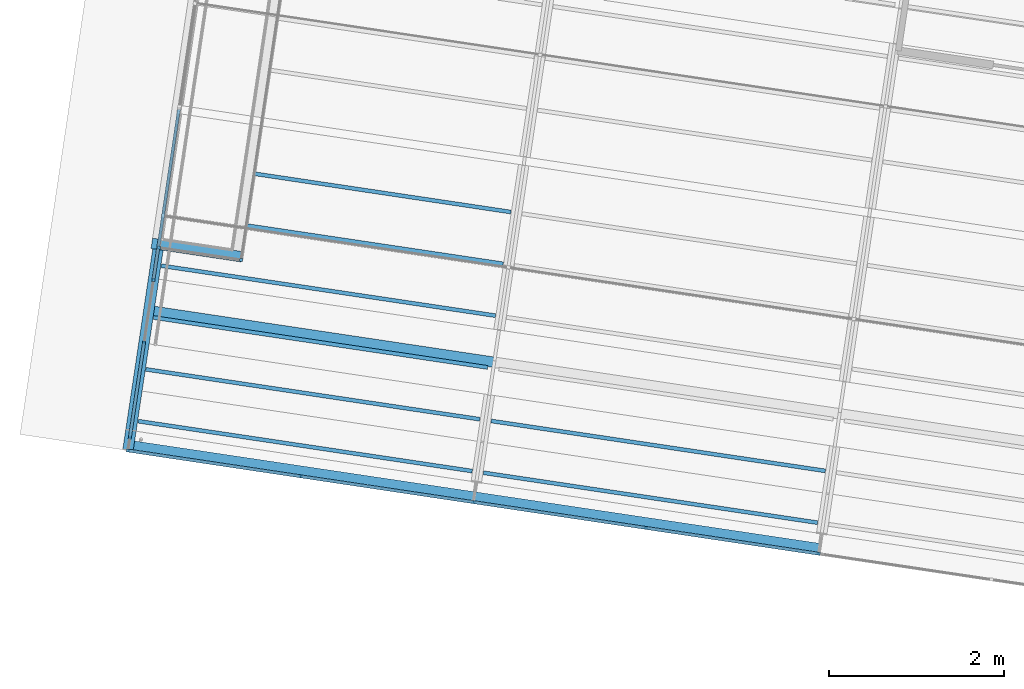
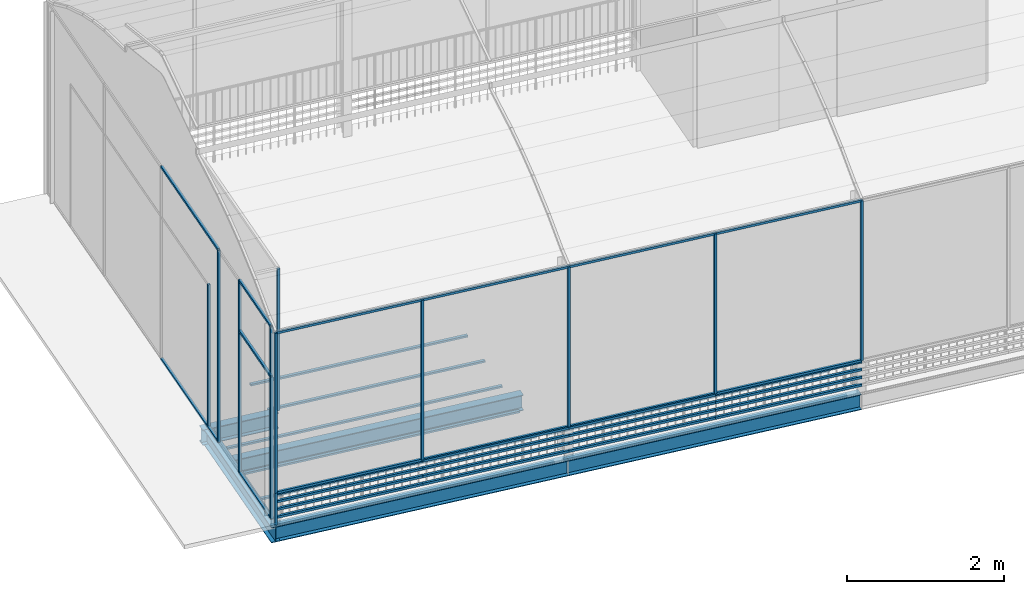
# One storey, part 3 of 34: 50 members, 13 beams.
"""IFC4 building model written with IfcOpenShell, lengths in metres."""

import ifcopenshell
import ifcopenshell.guid

model = None  # the IFC model being written
_history = None  # IfcOwnerHistory: only IFC2X3 demands one
_inside = {}  # id of a spatial element -> (the spatial element, [elements in it])
_under = {}  # id of a project, library or spatial element -> (it, [spatial elements below it])
_declared = {}  # id of a project -> (the project, [libraries it declares])
_typed = {}  # id of a type object -> (the type object, [elements of that type])
_made_of = {}  # id of a material, layer set ... -> (it, [elements and type objects made of it])


def new_model(schema):
    """Start an empty IFC model of exactly this schema.

    Asked for "IFC4X3", IfcOpenShell would pick the latest addendum, in which some entities
    have other attributes; the version numbers below select the first issue.
    IFC2X3 requires an IfcOwnerHistory on every rooted entity: one is made here for all.
    """
    global model, _history
    if schema == "IFC4X3":
        model = ifcopenshell.file(schema_version=(4, 3, 0, 0))
    else:
        model = ifcopenshell.file(schema=schema)
    _inside.clear()
    _under.clear()
    _declared.clear()
    _typed.clear()
    _made_of.clear()
    _history = None
    if model.schema == "IFC2X3":
        org = make("IfcOrganization", Name="unknown")
        user = make(
            "IfcPersonAndOrganization",
            ThePerson=make("IfcPerson", FamilyName="unknown"),
            TheOrganization=org,
        )
        app = make(
            "IfcApplication",
            ApplicationDeveloper=org,
            Version="unknown",
            ApplicationFullName="unknown",
            ApplicationIdentifier="unknown",
        )
        _history = make(
            "IfcOwnerHistory",
            OwningUser=user,
            OwningApplication=app,
            ChangeAction="ADDED",
            CreationDate=0,
        )
    return model


def make(cls, **values):
    """One entity of the class cls with the attributes given. An attribute that is None is left unset."""
    return model.create_entity(
        cls, **{name: value for name, value in values.items() if value is not None}
    )


def rooted(cls, **values):
    """An entity with a GlobalId (a new one), such as an element, a storey or a relation."""
    return make(cls, GlobalId=ifcopenshell.guid.new(), OwnerHistory=_history, **values)


def si_unit(unit_type, name, prefix=None):
    """IfcSIUnit, for example si_unit("LENGTHUNIT", "METRE", prefix="MILLI")."""
    return make("IfcSIUnit", UnitType=unit_type, Prefix=prefix, Name=name)


def assignment(units):
    """IfcUnitAssignment: the units of a project."""
    return None if units is None else make("IfcUnitAssignment", Units=units)


def point(xyz):
    """IfcCartesianPoint."""
    return None if xyz is None else make("IfcCartesianPoint", Coordinates=xyz)


def direction(xyz):
    """IfcDirection."""
    return None if xyz is None else make("IfcDirection", DirectionRatios=xyz)


def frame(location, z_axis=None, x_axis=None):
    """IfcAxis2Placement3D, a coordinate frame: its origin and axes. An axis left out is left unset."""
    return make(
        "IfcAxis2Placement3D",
        Location=point(location),
        Axis=direction(z_axis),
        RefDirection=direction(x_axis),
    )


def origin_with_axes():
    """The frame at (0, 0, 0) with the z axis (0, 0, 1) and the x axis (1, 0, 0) written out."""
    return frame((0.0, 0.0, 0.0), z_axis=(0.0, 0.0, 1.0), x_axis=(1.0, 0.0, 0.0))


def place(relative_to, where):
    """IfcLocalPlacement: puts the frame where relative to a parent placement (None: the world)."""
    return make(
        "IfcLocalPlacement", PlacementRelTo=relative_to, RelativePlacement=where
    )


def context(
    kind, dimensions, precision=None, world=None, true_north=None, identifier=None
):
    """IfcGeometricRepresentationContext, for example the 3D "Model" context."""
    return make(
        "IfcGeometricRepresentationContext",
        ContextIdentifier=identifier,
        ContextType=kind,
        CoordinateSpaceDimension=dimensions,
        Precision=precision,
        WorldCoordinateSystem=world,
        TrueNorth=true_north,
    )


def subcontext(parent, identifier, kind, view, scale=None):
    """IfcGeometricRepresentationSubContext, for example "Body" below "Model"."""
    return make(
        "IfcGeometricRepresentationSubContext",
        ContextIdentifier=identifier,
        ContextType=kind,
        ParentContext=parent,
        TargetScale=scale,
        TargetView=view,
    )


def project(units=None, contexts=None):
    """IfcProject with its units and contexts."""
    return rooted(
        "IfcProject",
        Name="project",
        RepresentationContexts=contexts,
        UnitsInContext=assignment(units),
    )


def spatial(cls, under=None, at=None, **own):
    """A site, building, storey or space (cls), placed at a placement, below another one or the project."""
    s = rooted(cls, ObjectPlacement=at, **own)
    if under is not None:
        _under.setdefault(under.id(), (under, []))[1].append(s)
    return s


def polyline(points):
    """IfcPolyline through the points."""
    return make("IfcPolyline", Points=[point(p) for p in points])


def profile(cls, at=None, kind="AREA", **sizes):
    """A parametric profile (cls). Its sizes go by their IFC names, for example OverallWidth=200.0."""
    return make(cls, ProfileType=kind, Position=at, **sizes)


def rectangle(**sizes):
    """IfcRectangleProfileDef."""
    return profile("IfcRectangleProfileDef", **sizes)


def i_section(**sizes):
    """IfcIShapeProfileDef."""
    return profile("IfcIShapeProfileDef", **sizes)


def outline(outer, holes=None, kind="AREA"):
    """IfcArbitraryClosedProfileDef: a profile drawn as a closed curve; with holes, ...WithVoids."""
    if holes is None:
        return make("IfcArbitraryClosedProfileDef", ProfileType=kind, OuterCurve=outer)
    return make(
        "IfcArbitraryProfileDefWithVoids",
        ProfileType=kind,
        OuterCurve=outer,
        InnerCurves=holes,
    )


def extrude(swept, where, along, depth):
    """IfcExtrudedAreaSolid: the profile swept, set in the frame where, extruded along a direction by depth."""
    return make(
        "IfcExtrudedAreaSolid",
        SweptArea=swept,
        Position=where,
        ExtrudedDirection=direction(along),
        Depth=depth,
    )


def shape(context_of_items, identifier, shape_type, items):
    """IfcShapeRepresentation: the items that make up one representation, for example the "Body"."""
    return make(
        "IfcShapeRepresentation",
        ContextOfItems=context_of_items,
        RepresentationIdentifier=identifier,
        RepresentationType=shape_type,
        Items=items,
    )


def material(Name=None, Category=None):
    """IfcMaterial."""
    return make("IfcMaterial", Name=Name, Category=Category)


def material_profile(
    of_material, cross_section, Name=None, Category=None, Priority=None
):
    """IfcMaterialProfile: a cross section and its material."""
    return make(
        "IfcMaterialProfile",
        Name=Name,
        Material=of_material,
        Profile=cross_section,
        Priority=Priority,
        Category=Category,
    )


def profile_set(profiles, Name=None, composite=None):
    """IfcMaterialProfileSet."""
    return make(
        "IfcMaterialProfileSet",
        Name=Name,
        MaterialProfiles=profiles,
        CompositeProfile=composite,
    )


def profile_usage(for_profile_set, cardinal=None, extent=None):
    """IfcMaterialProfileSetUsage: how a profile set lies along its element."""
    return make(
        "IfcMaterialProfileSetUsage",
        ForProfileSet=for_profile_set,
        CardinalPoint=cardinal,
        ReferenceExtent=extent,
    )


def made_of(thing, what):
    """Note that an element or type object is made of a material, layer set ...; save() writes the relation."""
    if what is not None:
        _made_of.setdefault(what.id(), (what, []))[1].append(thing)
    return thing


def type_object(cls, material=None, **own):
    """A type object (cls), such as IfcWallType, which elements share."""
    return made_of(rooted(cls, **own), material)


def element(
    cls,
    number,
    at=None,
    inside=None,
    cuts=None,
    type_object=None,
    material=None,
    context=None,
    identifier="Body",
    shape_type=None,
    held_by="IfcProductDefinitionShape",
    body=None,
    shapes=None,
    **own,
):
    """One element of the class cls, such as IfcWall. Its Tag is "e" and its number.

    at: its placement. inside: the storey or other place that contains it. cuts: it is an
    opening in that element (IfcRelVoidsElement). A single representation is given by context,
    identifier, shape_type and body (its items); several are given by shapes. held_by: the class
    of the entity that holds the representations. save() writes the other relations.
    """
    e = rooted(cls, Tag="e%d" % number, ObjectPlacement=at, **own)
    if body is not None:
        shapes = [shape(context, identifier, shape_type, body)]
    if shapes is not None:
        e.Representation = make(held_by, Representations=shapes)
    if inside is not None:
        _inside.setdefault(inside.id(), (inside, []))[1].append(e)
    if cuts is not None:
        rooted(
            "IfcRelVoidsElement", RelatingBuildingElement=cuts, RelatedOpeningElement=e
        )
    if type_object is not None:
        _typed.setdefault(type_object.id(), (type_object, []))[1].append(e)
    return made_of(e, material)


def aggregate(whole, parts):
    """IfcRelAggregates: a whole, such as a stair, and the parts it consists of."""
    return rooted("IfcRelAggregates", RelatingObject=whole, RelatedObjects=parts)


def save(model, path):
    """Write the relations noted so far, then the file.

    IfcRelAggregates (storeys below a building ...), IfcRelContainedInSpatialStructure (elements
    in a storey), IfcRelDefinesByType, IfcRelAssociatesMaterial and IfcRelDeclares: one each for
    every whole, place, type object, material and project.
    """
    for whole, parts in _under.values():
        aggregate(whole, parts)
    for where, things in _inside.values():
        rooted(
            "IfcRelContainedInSpatialStructure",
            RelatedElements=things,
            RelatingStructure=where,
        )
    for kind, things in _typed.values():
        rooted("IfcRelDefinesByType", RelatedObjects=things, RelatingType=kind)
    for what, things in _made_of.values():
        rooted("IfcRelAssociatesMaterial", RelatedObjects=things, RelatingMaterial=what)
    for by, libraries in _declared.values():
        rooted("IfcRelDeclares", RelatingContext=by, RelatedDefinitions=libraries)
    model.write(path)


model = new_model("IFC4")

# Units and contexts
model_context = context("Model", 3, precision=1e-05, world=origin_with_axes(), true_north=direction((0.0, 1.0)))
body_context = subcontext(model_context, "Body", "Model", "MODEL_VIEW")
ifc_project = project(units=[si_unit("AREAUNIT", "SQUARE_METRE"), si_unit("VOLUMEUNIT", "CUBIC_METRE"), si_unit("LENGTHUNIT", "METRE")], contexts=[model_context])

# Site, building, storey
site_placement = place(None, origin_with_axes())
site = spatial("IfcSite", under=ifc_project, at=site_placement, Name="Lares · Rua das Mercês · artigo 4771")
building_placement = place(site_placement, frame((15.0, 9.7, 14.65), z_axis=(0.0, 0.0, 1.0), x_axis=(0.989015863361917, -0.147809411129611, 0.0)))
building = spatial("IfcBuilding", under=site, at=building_placement, Name="Casa Sobreposta")
storey_placement = place(building_placement, frame((0.0, 0.0, 3.24), z_axis=(0.0, 0.0, 1.0), x_axis=(1.0, 0.0, 0.0)))
storey = spatial("IfcBuildingStorey", under=building, at=storey_placement, Name="01 · Jardim de inverno", Elevation=17.89)

# Beams
ifc_material_1 = material(Name="Aço pintado / Stahl lackiert", Category="steel")
ifc_material_profile_1 = material_profile(ifc_material_1, i_section(OverallWidth=0.12, OverallDepth=0.24, WebThickness=0.0062, FlangeThickness=0.0098))
ifc_profile_set_1 = profile_set([ifc_material_profile_1], Name="IPE240")
ifc_profile_usage_1 = profile_usage(ifc_profile_set_1)
beam_type = type_object("IfcBeamType", Name="IPE240 / steel", PredefinedType="NOTDEFINED", material=ifc_profile_set_1)
beam_1_placement = place(storey_placement, frame((0.0, 0.12, -0.152), z_axis=(1.0, 0.0, 0.0), x_axis=(0.0, -1.0, 0.0)))
element("IfcBeam", 1, at=beam_1_placement, inside=storey, type_object=beam_type, material=ifc_profile_usage_1, Name="Viga longitudinal 0 / 0.12", context=body_context, shape_type="SweptSolid", body=[
    extrude(i_section(OverallWidth=0.12, OverallDepth=0.24, WebThickness=0.0062, FlangeThickness=0.0098), origin_with_axes(), (0.0, 0.0, 1.0), 4.0),
])
ifc_profile_usage_2 = profile_usage(ifc_profile_set_1)
beam_2_placement = place(storey_placement, frame((0.0, -1.44, -0.152), z_axis=(1.0, 0.0, 0.0), x_axis=(0.0, -1.0, 0.0)))
element("IfcBeam", 2, at=beam_2_placement, inside=storey, type_object=beam_type, material=ifc_profile_usage_2, Name="Viga longitudinal 0 / -1.44", context=body_context, shape_type="SweptSolid", body=[
    extrude(i_section(OverallWidth=0.12, OverallDepth=0.24, WebThickness=0.0062, FlangeThickness=0.0098), origin_with_axes(), (0.0, 0.0, 1.0), 4.0),
])
ifc_profile_usage_3 = profile_usage(ifc_profile_set_1)
beam_3_placement = place(storey_placement, frame((4.0, -1.44, -0.152), z_axis=(1.0, 0.0, 0.0), x_axis=(0.0, -1.0, 0.0)))
element("IfcBeam", 3, at=beam_3_placement, inside=storey, type_object=beam_type, material=ifc_profile_usage_3, Name="Viga longitudinal 4 / -1.44", context=body_context, shape_type="SweptSolid", body=[
    extrude(i_section(OverallWidth=0.12, OverallDepth=0.24, WebThickness=0.0062, FlangeThickness=0.0098), origin_with_axes(), (0.0, 0.0, 1.0), 4.0),
])
ifc_profile_usage_4 = profile_usage(ifc_profile_set_1)
beam_4_placement = place(storey_placement, frame((0.0, -1.5, -0.152), z_axis=(0.0, 1.0, 0.0), x_axis=(1.0, 0.0, 0.0)))
element("IfcBeam", 4, at=beam_4_placement, inside=storey, type_object=beam_type, material=ifc_profile_usage_4, Name="Viga transversal eixo 0", context=body_context, shape_type="SweptSolid", body=[
    extrude(i_section(OverallWidth=0.12, OverallDepth=0.24, WebThickness=0.0062, FlangeThickness=0.0098), origin_with_axes(), (0.0, 0.0, 1.0), 2.4475),
])
ifc_profile_usage_5 = profile_usage(ifc_profile_set_1)
beam_5_placement = place(storey_placement, frame((-0.08, 0.8875, -0.152), z_axis=(1.0, 0.0, 0.0), x_axis=(0.0, -1.0, 0.0)))
element("IfcBeam", 5, at=beam_5_placement, inside=storey, type_object=beam_type, material=ifc_profile_usage_5, Name="Cabeceira do vão 1", context=body_context, shape_type="SweptSolid", body=[
    extrude(i_section(OverallWidth=0.12, OverallDepth=0.24, WebThickness=0.0062, FlangeThickness=0.0098), origin_with_axes(), (0.0, 0.0, 1.0), 1.04),
])

# Members
ifc_material_profile_2 = material_profile(ifc_material_1, rectangle(XDim=0.035, YDim=0.035))
ifc_profile_set_2 = profile_set([ifc_material_profile_2], Name="R0.035")
ifc_profile_usage_6 = profile_usage(ifc_profile_set_2)
member_type = type_object("IfcMemberType", Name="R0.035 / steel", PredefinedType="NOTDEFINED", material=ifc_profile_set_2)
member_1_placement = place(storey_placement, frame((0.0, -1.5, 0.5), z_axis=(0.0, 0.0, 1.0), x_axis=(1.0, 0.0, 0.0)))
element("IfcMember", 6, at=member_1_placement, inside=storey, type_object=member_type, material=ifc_profile_usage_6, Name="Estufa sul 1 · montante", context=body_context, shape_type="SweptSolid", body=[
    extrude(rectangle(XDim=0.035, YDim=0.035), origin_with_axes(), (0.0, 0.0, 1.0), 2.48),
])
ifc_profile_usage_7 = profile_usage(ifc_profile_set_2)
member_2_placement = place(storey_placement, frame((2.0, -1.5, 0.5), z_axis=(0.0, 0.0, 1.0), x_axis=(1.0, 0.0, 0.0)))
element("IfcMember", 7, at=member_2_placement, inside=storey, type_object=member_type, material=ifc_profile_usage_7, context=body_context, shape_type="SweptSolid", body=[
    extrude(rectangle(XDim=0.035, YDim=0.035), origin_with_axes(), (0.0, 0.0, 1.0), 2.48),
])
ifc_profile_usage_8 = profile_usage(ifc_profile_set_2)
member_3_placement = place(storey_placement, frame((0.0, -1.5, 0.5), z_axis=(1.0, 0.0, 0.0), x_axis=(0.0, -1.0, 0.0)))
element("IfcMember", 8, at=member_3_placement, inside=storey, type_object=member_type, material=ifc_profile_usage_8, Name="Estufa sul 1 · travessa", context=body_context, shape_type="SweptSolid", body=[
    extrude(rectangle(XDim=0.035, YDim=0.035), origin_with_axes(), (0.0, 0.0, 1.0), 2.0),
])
ifc_profile_usage_9 = profile_usage(ifc_profile_set_2)
member_4_placement = place(storey_placement, frame((0.0, -1.5, 2.98), z_axis=(1.0, 0.0, 0.0), x_axis=(0.0, -1.0, 0.0)))
element("IfcMember", 9, at=member_4_placement, inside=storey, type_object=member_type, material=ifc_profile_usage_9, Name="Estufa sul 1 · travessa", context=body_context, shape_type="SweptSolid", body=[
    extrude(rectangle(XDim=0.035, YDim=0.035), origin_with_axes(), (0.0, 0.0, 1.0), 2.0),
])
ifc_profile_usage_10 = profile_usage(ifc_profile_set_2)
member_5_placement = place(storey_placement, frame((0.0, -1.5, 0.12), z_axis=(1.0, 0.0, 0.0), x_axis=(0.0, -1.0, 0.0)))
element("IfcMember", 10, at=member_5_placement, inside=storey, type_object=member_type, material=ifc_profile_usage_10, Name="Entrada de ar sul 1", context=body_context, shape_type="SweptSolid", body=[
    extrude(rectangle(XDim=0.035, YDim=0.035), origin_with_axes(), (0.0, 0.0, 1.0), 2.0),
])
ifc_profile_usage_11 = profile_usage(ifc_profile_set_2)
member_6_placement = place(storey_placement, frame((0.0, -1.5, 0.24), z_axis=(1.0, 0.0, 0.0), x_axis=(0.0, -1.0, 0.0)))
element("IfcMember", 11, at=member_6_placement, inside=storey, type_object=member_type, material=ifc_profile_usage_11, Name="Entrada de ar sul 1", context=body_context, shape_type="SweptSolid", body=[
    extrude(rectangle(XDim=0.035, YDim=0.035), origin_with_axes(), (0.0, 0.0, 1.0), 2.0),
])
ifc_profile_usage_12 = profile_usage(ifc_profile_set_2)
member_7_placement = place(storey_placement, frame((0.0, -1.5, 0.36), z_axis=(1.0, 0.0, 0.0), x_axis=(0.0, -1.0, 0.0)))
element("IfcMember", 12, at=member_7_placement, inside=storey, type_object=member_type, material=ifc_profile_usage_12, Name="Entrada de ar sul 1", context=body_context, shape_type="SweptSolid", body=[
    extrude(rectangle(XDim=0.035, YDim=0.035), origin_with_axes(), (0.0, 0.0, 1.0), 2.0),
])
ifc_profile_usage_13 = profile_usage(ifc_profile_set_2)
member_8_placement = place(storey_placement, frame((0.0, -1.5, 0.48), z_axis=(1.0, 0.0, 0.0), x_axis=(0.0, -1.0, 0.0)))
element("IfcMember", 13, at=member_8_placement, inside=storey, type_object=member_type, material=ifc_profile_usage_13, Name="Entrada de ar sul 1", context=body_context, shape_type="SweptSolid", body=[
    extrude(rectangle(XDim=0.035, YDim=0.035), origin_with_axes(), (0.0, 0.0, 1.0), 2.0),
])
ifc_profile_usage_14 = profile_usage(ifc_profile_set_2)
member_9_placement = place(storey_placement, frame((2.0, -1.5, 0.5), z_axis=(0.0, 0.0, 1.0), x_axis=(1.0, 0.0, 0.0)))
element("IfcMember", 14, at=member_9_placement, inside=storey, type_object=member_type, material=ifc_profile_usage_14, context=body_context, shape_type="SweptSolid", body=[
    extrude(rectangle(XDim=0.035, YDim=0.035), origin_with_axes(), (0.0, 0.0, 1.0), 2.48),
])
ifc_profile_usage_15 = profile_usage(ifc_profile_set_2)
member_10_placement = place(storey_placement, frame((4.0, -1.5, 0.5), z_axis=(0.0, 0.0, 1.0), x_axis=(1.0, 0.0, 0.0)))
element("IfcMember", 15, at=member_10_placement, inside=storey, type_object=member_type, material=ifc_profile_usage_15, context=body_context, shape_type="SweptSolid", body=[
    extrude(rectangle(XDim=0.035, YDim=0.035), origin_with_axes(), (0.0, 0.0, 1.0), 2.48),
])
ifc_profile_usage_16 = profile_usage(ifc_profile_set_2)
member_11_placement = place(storey_placement, frame((2.0, -1.5, 0.5), z_axis=(1.0, 0.0, 0.0), x_axis=(0.0, -1.0, 0.0)))
element("IfcMember", 16, at=member_11_placement, inside=storey, type_object=member_type, material=ifc_profile_usage_16, Name="Estufa sul 2 · travessa", context=body_context, shape_type="SweptSolid", body=[
    extrude(rectangle(XDim=0.035, YDim=0.035), origin_with_axes(), (0.0, 0.0, 1.0), 2.0),
])
ifc_profile_usage_17 = profile_usage(ifc_profile_set_2)
member_12_placement = place(storey_placement, frame((2.0, -1.5, 2.98), z_axis=(1.0, 0.0, 0.0), x_axis=(0.0, -1.0, 0.0)))
element("IfcMember", 17, at=member_12_placement, inside=storey, type_object=member_type, material=ifc_profile_usage_17, Name="Estufa sul 2 · travessa", context=body_context, shape_type="SweptSolid", body=[
    extrude(rectangle(XDim=0.035, YDim=0.035), origin_with_axes(), (0.0, 0.0, 1.0), 2.0),
])
ifc_profile_usage_18 = profile_usage(ifc_profile_set_2)
member_13_placement = place(storey_placement, frame((2.0, -1.5, 0.12), z_axis=(1.0, 0.0, 0.0), x_axis=(0.0, -1.0, 0.0)))
element("IfcMember", 18, at=member_13_placement, inside=storey, type_object=member_type, material=ifc_profile_usage_18, Name="Entrada de ar sul 2", context=body_context, shape_type="SweptSolid", body=[
    extrude(rectangle(XDim=0.035, YDim=0.035), origin_with_axes(), (0.0, 0.0, 1.0), 2.0),
])
ifc_profile_usage_19 = profile_usage(ifc_profile_set_2)
member_14_placement = place(storey_placement, frame((2.0, -1.5, 0.24), z_axis=(1.0, 0.0, 0.0), x_axis=(0.0, -1.0, 0.0)))
element("IfcMember", 19, at=member_14_placement, inside=storey, type_object=member_type, material=ifc_profile_usage_19, Name="Entrada de ar sul 2", context=body_context, shape_type="SweptSolid", body=[
    extrude(rectangle(XDim=0.035, YDim=0.035), origin_with_axes(), (0.0, 0.0, 1.0), 2.0),
])
ifc_profile_usage_20 = profile_usage(ifc_profile_set_2)
member_15_placement = place(storey_placement, frame((2.0, -1.5, 0.36), z_axis=(1.0, 0.0, 0.0), x_axis=(0.0, -1.0, 0.0)))
element("IfcMember", 20, at=member_15_placement, inside=storey, type_object=member_type, material=ifc_profile_usage_20, Name="Entrada de ar sul 2", context=body_context, shape_type="SweptSolid", body=[
    extrude(rectangle(XDim=0.035, YDim=0.035), origin_with_axes(), (0.0, 0.0, 1.0), 2.0),
])
ifc_profile_usage_21 = profile_usage(ifc_profile_set_2)
member_16_placement = place(storey_placement, frame((2.0, -1.5, 0.48), z_axis=(1.0, 0.0, 0.0), x_axis=(0.0, -1.0, 0.0)))
element("IfcMember", 21, at=member_16_placement, inside=storey, type_object=member_type, material=ifc_profile_usage_21, Name="Entrada de ar sul 2", context=body_context, shape_type="SweptSolid", body=[
    extrude(rectangle(XDim=0.035, YDim=0.035), origin_with_axes(), (0.0, 0.0, 1.0), 2.0),
])
ifc_profile_usage_22 = profile_usage(ifc_profile_set_2)
member_17_placement = place(storey_placement, frame((4.0, -1.5, 0.5), z_axis=(0.0, 0.0, 1.0), x_axis=(1.0, 0.0, 0.0)))
element("IfcMember", 22, at=member_17_placement, inside=storey, type_object=member_type, material=ifc_profile_usage_22, context=body_context, shape_type="SweptSolid", body=[
    extrude(rectangle(XDim=0.035, YDim=0.035), origin_with_axes(), (0.0, 0.0, 1.0), 2.48),
])
ifc_profile_usage_23 = profile_usage(ifc_profile_set_2)
member_18_placement = place(storey_placement, frame((6.0, -1.5, 0.5), z_axis=(0.0, 0.0, 1.0), x_axis=(1.0, 0.0, 0.0)))
element("IfcMember", 23, at=member_18_placement, inside=storey, type_object=member_type, material=ifc_profile_usage_23, context=body_context, shape_type="SweptSolid", body=[
    extrude(rectangle(XDim=0.035, YDim=0.035), origin_with_axes(), (0.0, 0.0, 1.0), 2.48),
])
ifc_profile_usage_24 = profile_usage(ifc_profile_set_2)
member_19_placement = place(storey_placement, frame((4.0, -1.5, 0.5), z_axis=(1.0, 0.0, 0.0), x_axis=(0.0, -1.0, 0.0)))
element("IfcMember", 24, at=member_19_placement, inside=storey, type_object=member_type, material=ifc_profile_usage_24, Name="Estufa sul 3 · travessa", context=body_context, shape_type="SweptSolid", body=[
    extrude(rectangle(XDim=0.035, YDim=0.035), origin_with_axes(), (0.0, 0.0, 1.0), 2.0),
])
ifc_profile_usage_25 = profile_usage(ifc_profile_set_2)
member_20_placement = place(storey_placement, frame((4.0, -1.5, 2.98), z_axis=(1.0, 0.0, 0.0), x_axis=(0.0, -1.0, 0.0)))
element("IfcMember", 25, at=member_20_placement, inside=storey, type_object=member_type, material=ifc_profile_usage_25, Name="Estufa sul 3 · travessa", context=body_context, shape_type="SweptSolid", body=[
    extrude(rectangle(XDim=0.035, YDim=0.035), origin_with_axes(), (0.0, 0.0, 1.0), 2.0),
])
ifc_profile_usage_26 = profile_usage(ifc_profile_set_2)
member_21_placement = place(storey_placement, frame((4.0, -1.5, 0.12), z_axis=(1.0, 0.0, 0.0), x_axis=(0.0, -1.0, 0.0)))
element("IfcMember", 26, at=member_21_placement, inside=storey, type_object=member_type, material=ifc_profile_usage_26, Name="Entrada de ar sul 3", context=body_context, shape_type="SweptSolid", body=[
    extrude(rectangle(XDim=0.035, YDim=0.035), origin_with_axes(), (0.0, 0.0, 1.0), 2.0),
])
ifc_profile_usage_27 = profile_usage(ifc_profile_set_2)
member_22_placement = place(storey_placement, frame((4.0, -1.5, 0.24), z_axis=(1.0, 0.0, 0.0), x_axis=(0.0, -1.0, 0.0)))
element("IfcMember", 27, at=member_22_placement, inside=storey, type_object=member_type, material=ifc_profile_usage_27, Name="Entrada de ar sul 3", context=body_context, shape_type="SweptSolid", body=[
    extrude(rectangle(XDim=0.035, YDim=0.035), origin_with_axes(), (0.0, 0.0, 1.0), 2.0),
])
ifc_profile_usage_28 = profile_usage(ifc_profile_set_2)
member_23_placement = place(storey_placement, frame((4.0, -1.5, 0.36), z_axis=(1.0, 0.0, 0.0), x_axis=(0.0, -1.0, 0.0)))
element("IfcMember", 28, at=member_23_placement, inside=storey, type_object=member_type, material=ifc_profile_usage_28, Name="Entrada de ar sul 3", context=body_context, shape_type="SweptSolid", body=[
    extrude(rectangle(XDim=0.035, YDim=0.035), origin_with_axes(), (0.0, 0.0, 1.0), 2.0),
])
ifc_profile_usage_29 = profile_usage(ifc_profile_set_2)
member_24_placement = place(storey_placement, frame((4.0, -1.5, 0.48), z_axis=(1.0, 0.0, 0.0), x_axis=(0.0, -1.0, 0.0)))
element("IfcMember", 29, at=member_24_placement, inside=storey, type_object=member_type, material=ifc_profile_usage_29, Name="Entrada de ar sul 3", context=body_context, shape_type="SweptSolid", body=[
    extrude(rectangle(XDim=0.035, YDim=0.035), origin_with_axes(), (0.0, 0.0, 1.0), 2.0),
])
ifc_profile_usage_30 = profile_usage(ifc_profile_set_2)
member_25_placement = place(storey_placement, frame((6.0, -1.5, 0.5), z_axis=(0.0, 0.0, 1.0), x_axis=(1.0, 0.0, 0.0)))
element("IfcMember", 30, at=member_25_placement, inside=storey, type_object=member_type, material=ifc_profile_usage_30, context=body_context, shape_type="SweptSolid", body=[
    extrude(rectangle(XDim=0.035, YDim=0.035), origin_with_axes(), (0.0, 0.0, 1.0), 2.48),
])
ifc_profile_usage_31 = profile_usage(ifc_profile_set_2)
member_26_placement = place(storey_placement, frame((8.0, -1.5, 0.5), z_axis=(0.0, 0.0, 1.0), x_axis=(1.0, 0.0, 0.0)))
element("IfcMember", 31, at=member_26_placement, inside=storey, type_object=member_type, material=ifc_profile_usage_31, context=body_context, shape_type="SweptSolid", body=[
    extrude(rectangle(XDim=0.035, YDim=0.035), origin_with_axes(), (0.0, 0.0, 1.0), 2.48),
])
ifc_profile_usage_32 = profile_usage(ifc_profile_set_2)
member_27_placement = place(storey_placement, frame((6.0, -1.5, 0.5), z_axis=(1.0, 0.0, 0.0), x_axis=(0.0, -1.0, 0.0)))
element("IfcMember", 32, at=member_27_placement, inside=storey, type_object=member_type, material=ifc_profile_usage_32, Name="Estufa sul 4 · travessa", context=body_context, shape_type="SweptSolid", body=[
    extrude(rectangle(XDim=0.035, YDim=0.035), origin_with_axes(), (0.0, 0.0, 1.0), 2.0),
])
ifc_profile_usage_33 = profile_usage(ifc_profile_set_2)
member_28_placement = place(storey_placement, frame((6.0, -1.5, 2.98), z_axis=(1.0, 0.0, 0.0), x_axis=(0.0, -1.0, 0.0)))
element("IfcMember", 33, at=member_28_placement, inside=storey, type_object=member_type, material=ifc_profile_usage_33, Name="Estufa sul 4 · travessa", context=body_context, shape_type="SweptSolid", body=[
    extrude(rectangle(XDim=0.035, YDim=0.035), origin_with_axes(), (0.0, 0.0, 1.0), 2.0),
])
ifc_profile_usage_34 = profile_usage(ifc_profile_set_2)
member_29_placement = place(storey_placement, frame((6.0, -1.5, 0.12), z_axis=(1.0, 0.0, 0.0), x_axis=(0.0, -1.0, 0.0)))
element("IfcMember", 34, at=member_29_placement, inside=storey, type_object=member_type, material=ifc_profile_usage_34, Name="Entrada de ar sul 4", context=body_context, shape_type="SweptSolid", body=[
    extrude(rectangle(XDim=0.035, YDim=0.035), origin_with_axes(), (0.0, 0.0, 1.0), 2.0),
])
ifc_profile_usage_35 = profile_usage(ifc_profile_set_2)
member_30_placement = place(storey_placement, frame((6.0, -1.5, 0.24), z_axis=(1.0, 0.0, 0.0), x_axis=(0.0, -1.0, 0.0)))
element("IfcMember", 35, at=member_30_placement, inside=storey, type_object=member_type, material=ifc_profile_usage_35, Name="Entrada de ar sul 4", context=body_context, shape_type="SweptSolid", body=[
    extrude(rectangle(XDim=0.035, YDim=0.035), origin_with_axes(), (0.0, 0.0, 1.0), 2.0),
])
ifc_profile_usage_36 = profile_usage(ifc_profile_set_2)
member_31_placement = place(storey_placement, frame((6.0, -1.5, 0.36), z_axis=(1.0, 0.0, 0.0), x_axis=(0.0, -1.0, 0.0)))
element("IfcMember", 36, at=member_31_placement, inside=storey, type_object=member_type, material=ifc_profile_usage_36, Name="Entrada de ar sul 4", context=body_context, shape_type="SweptSolid", body=[
    extrude(rectangle(XDim=0.035, YDim=0.035), origin_with_axes(), (0.0, 0.0, 1.0), 2.0),
])
ifc_profile_usage_37 = profile_usage(ifc_profile_set_2)
member_32_placement = place(storey_placement, frame((6.0, -1.5, 0.48), z_axis=(1.0, 0.0, 0.0), x_axis=(0.0, -1.0, 0.0)))
element("IfcMember", 37, at=member_32_placement, inside=storey, type_object=member_type, material=ifc_profile_usage_37, Name="Entrada de ar sul 4", context=body_context, shape_type="SweptSolid", body=[
    extrude(rectangle(XDim=0.035, YDim=0.035), origin_with_axes(), (0.0, 0.0, 1.0), 2.0),
])
ifc_profile_usage_38 = profile_usage(ifc_profile_set_2)
member_33_placement = place(storey_placement, frame((8.0, -1.5, 0.5), z_axis=(0.0, 0.0, 1.0), x_axis=(1.0, 0.0, 0.0)))
element("IfcMember", 38, at=member_33_placement, inside=storey, type_object=member_type, material=ifc_profile_usage_38, context=body_context, shape_type="SweptSolid", body=[
    extrude(rectangle(XDim=0.035, YDim=0.035), origin_with_axes(), (0.0, 0.0, 1.0), 2.48),
])
ifc_profile_usage_39 = profile_usage(ifc_profile_set_2)
member_34_placement = place(storey_placement, frame((0.0, -1.35, 0.0), z_axis=(0.0, 0.0, 1.0), x_axis=(1.0, 0.0, 0.0)))
element("IfcMember", 39, at=member_34_placement, inside=storey, type_object=member_type, material=ifc_profile_usage_39, Name="Varanda · porta de correr oeste · montante", context=body_context, shape_type="SweptSolid", body=[
    extrude(rectangle(XDim=0.035, YDim=0.035), origin_with_axes(), (0.0, 0.0, 1.0), 2.2),
])
ifc_profile_usage_40 = profile_usage(ifc_profile_set_2)
member_35_placement = place(storey_placement, frame((0.0, -0.25, 0.0), z_axis=(0.0, 0.0, 1.0), x_axis=(1.0, 0.0, 0.0)))
element("IfcMember", 40, at=member_35_placement, inside=storey, type_object=member_type, material=ifc_profile_usage_40, Name="Varanda · porta de correr oeste · montante", context=body_context, shape_type="SweptSolid", body=[
    extrude(rectangle(XDim=0.035, YDim=0.035), origin_with_axes(), (0.0, 0.0, 1.0), 2.2),
])
ifc_profile_usage_41 = profile_usage(ifc_profile_set_2)
member_36_placement = place(storey_placement, frame((0.0, -1.35, 0.0), z_axis=(0.0, 1.0, 0.0), x_axis=(1.0, 0.0, 0.0)))
element("IfcMember", 41, at=member_36_placement, inside=storey, type_object=member_type, material=ifc_profile_usage_41, Name="Varanda · porta de correr oeste · travessa", context=body_context, shape_type="SweptSolid", body=[
    extrude(rectangle(XDim=0.035, YDim=0.035), origin_with_axes(), (0.0, 0.0, 1.0), 1.1),
])
ifc_profile_usage_42 = profile_usage(ifc_profile_set_2)
member_37_placement = place(storey_placement, frame((0.0, -1.35, 2.2), z_axis=(0.0, 1.0, 0.0), x_axis=(1.0, 0.0, 0.0)))
element("IfcMember", 42, at=member_37_placement, inside=storey, type_object=member_type, material=ifc_profile_usage_42, context=body_context, shape_type="SweptSolid", body=[
    extrude(rectangle(XDim=0.035, YDim=0.035), origin_with_axes(), (0.0, 0.0, 1.0), 1.1),
])
ifc_profile_usage_43 = profile_usage(ifc_profile_set_2)
member_38_placement = place(storey_placement, frame((0.0, -1.35, 2.2), z_axis=(0.0, 1.0, 0.0), x_axis=(1.0, 0.0, 0.0)))
element("IfcMember", 43, at=member_38_placement, inside=storey, type_object=member_type, material=ifc_profile_usage_43, context=body_context, shape_type="SweptSolid", body=[
    extrude(rectangle(XDim=0.035, YDim=0.035), origin_with_axes(), (0.0, 0.0, 1.0), 1.1),
])
ifc_profile_usage_44 = profile_usage(ifc_profile_set_2)
member_39_placement = place(storey_placement, frame((0.0, -1.35, 2.98), z_axis=(0.0, 1.0, 0.0), x_axis=(1.0, 0.0, 0.0)))
element("IfcMember", 44, at=member_39_placement, inside=storey, type_object=member_type, material=ifc_profile_usage_44, Name="Varanda · bandeira da porta · travessa", context=body_context, shape_type="SweptSolid", body=[
    extrude(rectangle(XDim=0.035, YDim=0.035), origin_with_axes(), (0.0, 0.0, 1.0), 1.1),
])
ifc_profile_usage_45 = profile_usage(ifc_profile_set_2)
member_40_placement = place(storey_placement, frame((0.0, -1.5, 0.0), z_axis=(0.0, 0.0, 1.0), x_axis=(1.0, 0.0, 0.0)))
element("IfcMember", 45, at=member_40_placement, inside=storey, type_object=member_type, material=ifc_profile_usage_45, Name="Varanda · vidro lateral · montante", context=body_context, shape_type="SweptSolid", body=[
    extrude(rectangle(XDim=0.035, YDim=0.035), origin_with_axes(), (0.0, 0.0, 1.0), 2.98),
])
ifc_profile_usage_46 = profile_usage(ifc_profile_set_2)
member_41_placement = place(storey_placement, frame((0.0, -1.35, 0.0), z_axis=(0.0, 0.0, 1.0), x_axis=(1.0, 0.0, 0.0)))
element("IfcMember", 46, at=member_41_placement, inside=storey, type_object=member_type, material=ifc_profile_usage_46, Name="Varanda · vidro lateral · montante", context=body_context, shape_type="SweptSolid", body=[
    extrude(rectangle(XDim=0.035, YDim=0.035), origin_with_axes(), (0.0, 0.0, 1.0), 2.98),
])
ifc_profile_usage_47 = profile_usage(ifc_profile_set_2)
member_42_placement = place(storey_placement, frame((0.0, -0.25, 0.0), z_axis=(0.0, 0.0, 1.0), x_axis=(1.0, 0.0, 0.0)))
element("IfcMember", 47, at=member_42_placement, inside=storey, type_object=member_type, material=ifc_profile_usage_47, Name="Varanda · vidro lateral · montante", context=body_context, shape_type="SweptSolid", body=[
    extrude(rectangle(XDim=0.035, YDim=0.035), origin_with_axes(), (0.0, 0.0, 1.0), 2.98),
])
ifc_profile_usage_48 = profile_usage(ifc_profile_set_2)
member_43_placement = place(storey_placement, frame((0.0, 0.475, 0.0), z_axis=(0.0, 0.0, 1.0), x_axis=(1.0, 0.0, 0.0)))
element("IfcMember", 48, at=member_43_placement, inside=storey, type_object=member_type, material=ifc_profile_usage_48, context=body_context, shape_type="SweptSolid", body=[
    extrude(rectangle(XDim=0.035, YDim=0.035), origin_with_axes(), (0.0, 0.0, 1.0), 2.98),
])
ifc_profile_usage_49 = profile_usage(ifc_profile_set_2)
member_44_placement = place(storey_placement, frame((0.0, 0.475, 0.0), z_axis=(0.0, 0.0, 1.0), x_axis=(1.0, 0.0, 0.0)))
element("IfcMember", 49, at=member_44_placement, inside=storey, type_object=member_type, material=ifc_profile_usage_49, context=body_context, shape_type="SweptSolid", body=[
    extrude(rectangle(XDim=0.035, YDim=0.035), origin_with_axes(), (0.0, 0.0, 1.0), 2.98),
])
ifc_profile_usage_50 = profile_usage(ifc_profile_set_2)
member_45_placement = place(storey_placement, frame((0.0, 0.475, 0.0), z_axis=(0.0, 1.0, 0.0), x_axis=(1.0, 0.0, 0.0)))
element("IfcMember", 50, at=member_45_placement, inside=storey, type_object=member_type, material=ifc_profile_usage_50, Name="Estufa poente 2 · travessa", context=body_context, shape_type="SweptSolid", body=[
    extrude(rectangle(XDim=0.035, YDim=0.035), origin_with_axes(), (0.0, 0.0, 1.0), 1.975),
])
ifc_profile_usage_51 = profile_usage(ifc_profile_set_2)
member_46_placement = place(storey_placement, frame((0.0, 0.475, 2.98), z_axis=(0.0, 1.0, 0.0), x_axis=(1.0, 0.0, 0.0)))
element("IfcMember", 51, at=member_46_placement, inside=storey, type_object=member_type, material=ifc_profile_usage_51, Name="Estufa poente 2 · travessa", context=body_context, shape_type="SweptSolid", body=[
    extrude(rectangle(XDim=0.035, YDim=0.035), origin_with_axes(), (0.0, 0.0, 1.0), 1.975),
])
ifc_profile_usage_52 = profile_usage(ifc_profile_set_2)
member_47_placement = place(storey_placement, frame((0.01, 0.85, 0.0), z_axis=(0.0, 0.0, 1.0), x_axis=(1.0, 0.0, 0.0)))
element("IfcMember", 52, at=member_47_placement, inside=storey, type_object=member_type, material=ifc_profile_usage_52, context=body_context, shape_type="SweptSolid", body=[
    extrude(rectangle(XDim=0.035, YDim=0.035), origin_with_axes(), (0.0, 0.0, 1.0), 2.2),
])
ifc_profile_usage_53 = profile_usage(ifc_profile_set_2)
member_48_placement = place(storey_placement, frame((0.96, 0.85, 0.0), z_axis=(0.0, 0.0, 1.0), x_axis=(1.0, 0.0, 0.0)))
element("IfcMember", 53, at=member_48_placement, inside=storey, type_object=member_type, material=ifc_profile_usage_53, context=body_context, shape_type="SweptSolid", body=[
    extrude(rectangle(XDim=0.035, YDim=0.035), origin_with_axes(), (0.0, 0.0, 1.0), 2.2),
])
ifc_profile_usage_54 = profile_usage(ifc_profile_set_2)
member_49_placement = place(storey_placement, frame((0.01, 0.85, 0.0), z_axis=(0.0, 0.0, 1.0), x_axis=(1.0, 0.0, 0.0)))
element("IfcMember", 54, at=member_49_placement, inside=storey, type_object=member_type, material=ifc_profile_usage_54, context=body_context, shape_type="SweptSolid", body=[
    extrude(rectangle(XDim=0.035, YDim=0.035), origin_with_axes(), (0.0, 0.0, 1.0), 2.2),
])
ifc_profile_usage_55 = profile_usage(ifc_profile_set_2)
member_50_placement = place(storey_placement, frame((0.96, 0.85, 0.0), z_axis=(0.0, 0.0, 1.0), x_axis=(1.0, 0.0, 0.0)))
element("IfcMember", 55, at=member_50_placement, inside=storey, type_object=member_type, material=ifc_profile_usage_55, context=body_context, shape_type="SweptSolid", body=[
    extrude(rectangle(XDim=0.035, YDim=0.035), origin_with_axes(), (0.0, 0.0, 1.0), 2.2),
])

# Beams
ifc_material_2 = material(Name="Madeira / Bauholz", Category="wood")
ifc_material_profile_3 = material_profile(ifc_material_2, outline(polyline([(0.022225, -0.12), (0.022225, -0.092), (-0.022225, -0.092), (-0.022225, -0.12), (0.022225, -0.12)])))
ifc_material_3 = material(Name="OSB", Category="wood")
ifc_material_profile_4 = material_profile(ifc_material_3, outline(polyline([(0.0047625, -0.092), (0.0047625, 0.092), (-0.0047625, 0.092), (-0.0047625, -0.092), (0.0047625, -0.092)])))
ifc_material_profile_5 = material_profile(ifc_material_2, outline(polyline([(0.022225, 0.092), (0.022225, 0.12), (-0.022225, 0.12), (-0.022225, 0.092), (0.022225, 0.092)])))
ifc_profile_set_3 = profile_set([ifc_material_profile_3, ifc_material_profile_4, ifc_material_profile_5], Name="TJI240 · madeira / OSB")
ifc_profile_usage_56 = profile_usage(ifc_profile_set_3)
beam_6_placement = place(storey_placement, frame((0.065, -1.15, -0.152), z_axis=(1.0, 0.0, 0.0), x_axis=(0.0, 1.0, 0.0)))
element("IfcBeam", 56, at=beam_6_placement, inside=storey, material=ifc_profile_usage_56, Name="TJI240 · 0.065 / -1.15", context=body_context, shape_type="SweptSolid", body=[
    extrude(outline(polyline([(0.022225, -0.12), (0.022225, -0.092), (-0.022225, -0.092), (-0.022225, -0.12), (0.022225, -0.12)])), origin_with_axes(), (0.0, 0.0, 1.0), 3.87),
    extrude(outline(polyline([(0.022225, -0.12), (0.022225, -0.092), (-0.022225, -0.092), (-0.022225, -0.12), (0.022225, -0.12)])), origin_with_axes(), (0.0, 0.0, 1.0), 3.87),
    extrude(outline(polyline([(0.022225, -0.12), (0.022225, -0.092), (-0.022225, -0.092), (-0.022225, -0.12), (0.022225, -0.12)])), origin_with_axes(), (0.0, 0.0, 1.0), 3.87),
])
ifc_material_profile_6 = material_profile(ifc_material_2, outline(polyline([(0.022225, -0.12), (0.022225, -0.092), (-0.022225, -0.092), (-0.022225, -0.12), (0.022225, -0.12)])))
ifc_material_profile_7 = material_profile(ifc_material_3, outline(polyline([(0.0047625, -0.092), (0.0047625, 0.092), (-0.0047625, 0.092), (-0.0047625, -0.092), (0.0047625, -0.092)])))
ifc_material_profile_8 = material_profile(ifc_material_2, outline(polyline([(0.022225, 0.092), (0.022225, 0.12), (-0.022225, 0.12), (-0.022225, 0.092), (0.022225, 0.092)])))
ifc_profile_set_4 = profile_set([ifc_material_profile_6, ifc_material_profile_7, ifc_material_profile_8], Name="TJI240 · madeira / OSB")
ifc_profile_usage_57 = profile_usage(ifc_profile_set_4)
beam_7_placement = place(storey_placement, frame((4.065, -1.15, -0.152), z_axis=(1.0, 0.0, 0.0), x_axis=(0.0, 1.0, 0.0)))
element("IfcBeam", 57, at=beam_7_placement, inside=storey, material=ifc_profile_usage_57, Name="TJI240 · 4.065 / -1.15", context=body_context, shape_type="SweptSolid", body=[
    extrude(outline(polyline([(0.022225, -0.12), (0.022225, -0.092), (-0.022225, -0.092), (-0.022225, -0.12), (0.022225, -0.12)])), origin_with_axes(), (0.0, 0.0, 1.0), 3.87),
    extrude(outline(polyline([(0.022225, -0.12), (0.022225, -0.092), (-0.022225, -0.092), (-0.022225, -0.12), (0.022225, -0.12)])), origin_with_axes(), (0.0, 0.0, 1.0), 3.87),
    extrude(outline(polyline([(0.022225, -0.12), (0.022225, -0.092), (-0.022225, -0.092), (-0.022225, -0.12), (0.022225, -0.12)])), origin_with_axes(), (0.0, 0.0, 1.0), 3.87),
])
ifc_material_profile_9 = material_profile(ifc_material_2, outline(polyline([(0.022225, -0.12), (0.022225, -0.092), (-0.022225, -0.092), (-0.022225, -0.12), (0.022225, -0.12)])))
ifc_material_profile_10 = material_profile(ifc_material_3, outline(polyline([(0.0047625, -0.092), (0.0047625, 0.092), (-0.0047625, 0.092), (-0.0047625, -0.092), (0.0047625, -0.092)])))
ifc_material_profile_11 = material_profile(ifc_material_2, outline(polyline([(0.022225, 0.092), (0.022225, 0.12), (-0.022225, 0.12), (-0.022225, 0.092), (0.022225, 0.092)])))
ifc_profile_set_5 = profile_set([ifc_material_profile_9, ifc_material_profile_10, ifc_material_profile_11], Name="TJI240 · madeira / OSB")
ifc_profile_usage_58 = profile_usage(ifc_profile_set_5)
beam_8_placement = place(storey_placement, frame((0.065, -0.55, -0.152), z_axis=(1.0, 0.0, 0.0), x_axis=(0.0, 1.0, 0.0)))
element("IfcBeam", 58, at=beam_8_placement, inside=storey, material=ifc_profile_usage_58, Name="TJI240 · 0.065 / -0.55", context=body_context, shape_type="SweptSolid", body=[
    extrude(outline(polyline([(0.022225, -0.12), (0.022225, -0.092), (-0.022225, -0.092), (-0.022225, -0.12), (0.022225, -0.12)])), origin_with_axes(), (0.0, 0.0, 1.0), 3.87),
    extrude(outline(polyline([(0.022225, -0.12), (0.022225, -0.092), (-0.022225, -0.092), (-0.022225, -0.12), (0.022225, -0.12)])), origin_with_axes(), (0.0, 0.0, 1.0), 3.87),
    extrude(outline(polyline([(0.022225, -0.12), (0.022225, -0.092), (-0.022225, -0.092), (-0.022225, -0.12), (0.022225, -0.12)])), origin_with_axes(), (0.0, 0.0, 1.0), 3.87),
])
ifc_material_profile_12 = material_profile(ifc_material_2, outline(polyline([(0.022225, -0.12), (0.022225, -0.092), (-0.022225, -0.092), (-0.022225, -0.12), (0.022225, -0.12)])))
ifc_material_profile_13 = material_profile(ifc_material_3, outline(polyline([(0.0047625, -0.092), (0.0047625, 0.092), (-0.0047625, 0.092), (-0.0047625, -0.092), (0.0047625, -0.092)])))
ifc_material_profile_14 = material_profile(ifc_material_2, outline(polyline([(0.022225, 0.092), (0.022225, 0.12), (-0.022225, 0.12), (-0.022225, 0.092), (0.022225, 0.092)])))
ifc_profile_set_6 = profile_set([ifc_material_profile_12, ifc_material_profile_13, ifc_material_profile_14], Name="TJI240 · madeira / OSB")
ifc_profile_usage_59 = profile_usage(ifc_profile_set_6)
beam_9_placement = place(storey_placement, frame((4.065, -0.55, -0.152), z_axis=(1.0, 0.0, 0.0), x_axis=(0.0, 1.0, 0.0)))
element("IfcBeam", 59, at=beam_9_placement, inside=storey, material=ifc_profile_usage_59, Name="TJI240 · 4.065 / -0.55", context=body_context, shape_type="SweptSolid", body=[
    extrude(outline(polyline([(0.022225, -0.12), (0.022225, -0.092), (-0.022225, -0.092), (-0.022225, -0.12), (0.022225, -0.12)])), origin_with_axes(), (0.0, 0.0, 1.0), 3.87),
    extrude(outline(polyline([(0.022225, -0.12), (0.022225, -0.092), (-0.022225, -0.092), (-0.022225, -0.12), (0.022225, -0.12)])), origin_with_axes(), (0.0, 0.0, 1.0), 3.87),
    extrude(outline(polyline([(0.022225, -0.12), (0.022225, -0.092), (-0.022225, -0.092), (-0.022225, -0.12), (0.022225, -0.12)])), origin_with_axes(), (0.0, 0.0, 1.0), 3.87),
])
ifc_material_profile_15 = material_profile(ifc_material_2, outline(polyline([(0.022225, -0.12), (0.022225, -0.092), (-0.022225, -0.092), (-0.022225, -0.12), (0.022225, -0.12)])))
ifc_material_profile_16 = material_profile(ifc_material_3, outline(polyline([(0.0047625, -0.092), (0.0047625, 0.092), (-0.0047625, 0.092), (-0.0047625, -0.092), (0.0047625, -0.092)])))
ifc_material_profile_17 = material_profile(ifc_material_2, outline(polyline([(0.022225, 0.092), (0.022225, 0.12), (-0.022225, 0.12), (-0.022225, 0.092), (0.022225, 0.092)])))
ifc_profile_set_7 = profile_set([ifc_material_profile_15, ifc_material_profile_16, ifc_material_profile_17], Name="TJI240 · madeira / OSB")
ifc_profile_usage_60 = profile_usage(ifc_profile_set_7)
beam_10_placement = place(storey_placement, frame((0.065, 0.05, -0.152), z_axis=(1.0, 0.0, 0.0), x_axis=(0.0, 1.0, 0.0)))
element("IfcBeam", 60, at=beam_10_placement, inside=storey, material=ifc_profile_usage_60, Name="TJI240 · 0.065 / 0.05", context=body_context, shape_type="SweptSolid", body=[
    extrude(outline(polyline([(0.022225, -0.12), (0.022225, -0.092), (-0.022225, -0.092), (-0.022225, -0.12), (0.022225, -0.12)])), origin_with_axes(), (0.0, 0.0, 1.0), 3.87),
    extrude(outline(polyline([(0.022225, -0.12), (0.022225, -0.092), (-0.022225, -0.092), (-0.022225, -0.12), (0.022225, -0.12)])), origin_with_axes(), (0.0, 0.0, 1.0), 3.87),
    extrude(outline(polyline([(0.022225, -0.12), (0.022225, -0.092), (-0.022225, -0.092), (-0.022225, -0.12), (0.022225, -0.12)])), origin_with_axes(), (0.0, 0.0, 1.0), 3.87),
])
ifc_material_profile_18 = material_profile(ifc_material_2, outline(polyline([(0.022225, -0.12), (0.022225, -0.092), (-0.022225, -0.092), (-0.022225, -0.12), (0.022225, -0.12)])))
ifc_material_profile_19 = material_profile(ifc_material_3, outline(polyline([(0.0047625, -0.092), (0.0047625, 0.092), (-0.0047625, 0.092), (-0.0047625, -0.092), (0.0047625, -0.092)])))
ifc_material_profile_20 = material_profile(ifc_material_2, outline(polyline([(0.022225, 0.092), (0.022225, 0.12), (-0.022225, 0.12), (-0.022225, 0.092), (0.022225, 0.092)])))
ifc_profile_set_8 = profile_set([ifc_material_profile_18, ifc_material_profile_19, ifc_material_profile_20], Name="TJI240 · madeira / OSB")
ifc_profile_usage_61 = profile_usage(ifc_profile_set_8)
beam_11_placement = place(storey_placement, frame((0.065, 0.65, -0.152), z_axis=(1.0, 0.0, 0.0), x_axis=(0.0, 1.0, 0.0)))
element("IfcBeam", 61, at=beam_11_placement, inside=storey, material=ifc_profile_usage_61, Name="TJI240 · 0.065 / 0.65", context=body_context, shape_type="SweptSolid", body=[
    extrude(outline(polyline([(0.022225, -0.12), (0.022225, -0.092), (-0.022225, -0.092), (-0.022225, -0.12), (0.022225, -0.12)])), origin_with_axes(), (0.0, 0.0, 1.0), 3.87),
    extrude(outline(polyline([(0.022225, -0.12), (0.022225, -0.092), (-0.022225, -0.092), (-0.022225, -0.12), (0.022225, -0.12)])), origin_with_axes(), (0.0, 0.0, 1.0), 3.87),
    extrude(outline(polyline([(0.022225, -0.12), (0.022225, -0.092), (-0.022225, -0.092), (-0.022225, -0.12), (0.022225, -0.12)])), origin_with_axes(), (0.0, 0.0, 1.0), 3.87),
])
ifc_material_profile_21 = material_profile(ifc_material_2, outline(polyline([(0.022225, -0.12), (0.022225, -0.092), (-0.022225, -0.092), (-0.022225, -0.12), (0.022225, -0.12)])))
ifc_material_profile_22 = material_profile(ifc_material_3, outline(polyline([(0.0047625, -0.092), (0.0047625, 0.092), (-0.0047625, 0.092), (-0.0047625, -0.092), (0.0047625, -0.092)])))
ifc_material_profile_23 = material_profile(ifc_material_2, outline(polyline([(0.022225, 0.092), (0.022225, 0.12), (-0.022225, 0.12), (-0.022225, 0.092), (0.022225, 0.092)])))
ifc_profile_set_9 = profile_set([ifc_material_profile_21, ifc_material_profile_22, ifc_material_profile_23], Name="TJI240 · madeira / OSB")
ifc_profile_usage_62 = profile_usage(ifc_profile_set_9)
beam_12_placement = place(storey_placement, frame((0.97, 1.25, -0.152), z_axis=(1.0, 0.0, 0.0), x_axis=(0.0, 1.0, 0.0)))
element("IfcBeam", 62, at=beam_12_placement, inside=storey, material=ifc_profile_usage_62, Name="TJI240 · 0.970 / 1.25", context=body_context, shape_type="SweptSolid", body=[
    extrude(outline(polyline([(0.022225, -0.12), (0.022225, -0.092), (-0.022225, -0.092), (-0.022225, -0.12), (0.022225, -0.12)])), origin_with_axes(), (0.0, 0.0, 1.0), 2.965),
    extrude(outline(polyline([(0.022225, -0.12), (0.022225, -0.092), (-0.022225, -0.092), (-0.022225, -0.12), (0.022225, -0.12)])), origin_with_axes(), (0.0, 0.0, 1.0), 2.965),
    extrude(outline(polyline([(0.022225, -0.12), (0.022225, -0.092), (-0.022225, -0.092), (-0.022225, -0.12), (0.022225, -0.12)])), origin_with_axes(), (0.0, 0.0, 1.0), 2.965),
])
ifc_material_profile_24 = material_profile(ifc_material_2, outline(polyline([(0.022225, -0.12), (0.022225, -0.092), (-0.022225, -0.092), (-0.022225, -0.12), (0.022225, -0.12)])))
ifc_material_profile_25 = material_profile(ifc_material_3, outline(polyline([(0.0047625, -0.092), (0.0047625, 0.092), (-0.0047625, 0.092), (-0.0047625, -0.092), (0.0047625, -0.092)])))
ifc_material_profile_26 = material_profile(ifc_material_2, outline(polyline([(0.022225, 0.092), (0.022225, 0.12), (-0.022225, 0.12), (-0.022225, 0.092), (0.022225, 0.092)])))
ifc_profile_set_10 = profile_set([ifc_material_profile_24, ifc_material_profile_25, ifc_material_profile_26], Name="TJI240 · madeira / OSB")
ifc_profile_usage_63 = profile_usage(ifc_profile_set_10)
beam_13_placement = place(storey_placement, frame((0.97, 1.85, -0.152), z_axis=(1.0, 0.0, 0.0), x_axis=(0.0, 1.0, 0.0)))
element("IfcBeam", 63, at=beam_13_placement, inside=storey, material=ifc_profile_usage_63, Name="TJI240 · 0.970 / 1.85", context=body_context, shape_type="SweptSolid", body=[
    extrude(outline(polyline([(0.022225, -0.12), (0.022225, -0.092), (-0.022225, -0.092), (-0.022225, -0.12), (0.022225, -0.12)])), origin_with_axes(), (0.0, 0.0, 1.0), 2.965),
    extrude(outline(polyline([(0.022225, -0.12), (0.022225, -0.092), (-0.022225, -0.092), (-0.022225, -0.12), (0.022225, -0.12)])), origin_with_axes(), (0.0, 0.0, 1.0), 2.965),
    extrude(outline(polyline([(0.022225, -0.12), (0.022225, -0.092), (-0.022225, -0.092), (-0.022225, -0.12), (0.022225, -0.12)])), origin_with_axes(), (0.0, 0.0, 1.0), 2.965),
])

save(model, "model.ifc")
